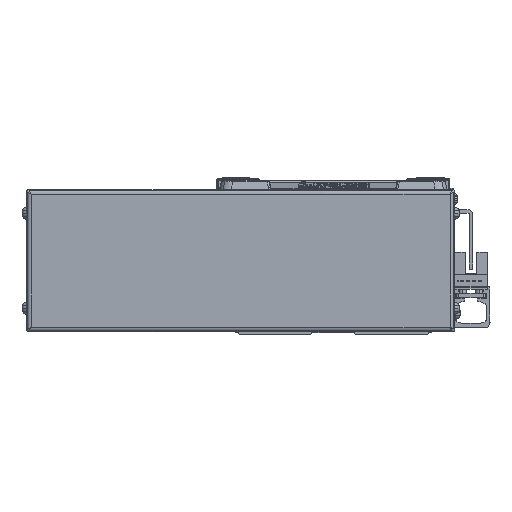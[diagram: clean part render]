
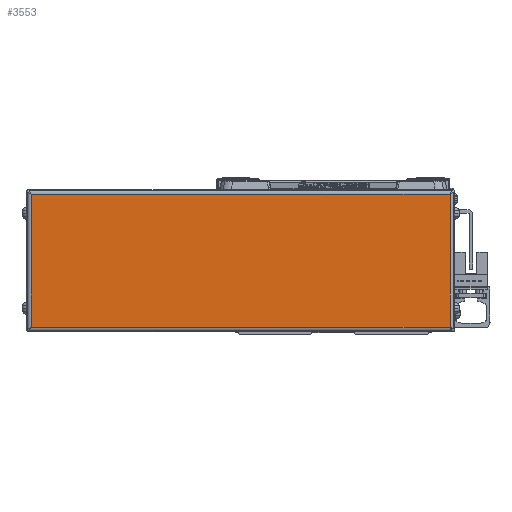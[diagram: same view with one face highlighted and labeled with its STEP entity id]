
A CAD part, left-side view. The second image highlights one B-rep face of the part: STEP entity #3553.
In plain terms, the highlighted planar face has unit normal (-1, 0, 0).
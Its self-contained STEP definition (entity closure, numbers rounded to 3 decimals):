
#3553=ADVANCED_FACE('',(#8895),#8896,.F.);
#8895=FACE_OUTER_BOUND('',#16591,.T.);
#8896=PLANE('',#16592);
#16591=EDGE_LOOP('',(#26758,#26759,#26760,#26761));
#16592=AXIS2_PLACEMENT_3D('',#26762,#26763,#26764);
#26758=ORIENTED_EDGE('',*,*,#46851,.T.);
#26759=ORIENTED_EDGE('',*,*,#46852,.T.);
#26760=ORIENTED_EDGE('',*,*,#46853,.T.);
#26761=ORIENTED_EDGE('',*,*,#45154,.T.);
#26762=CARTESIAN_POINT('',(-616.,39.,0.));
#26763=DIRECTION('',(1.0,0.,0.));
#26764=DIRECTION('',(0.,0.,1.0));
#45154=EDGE_CURVE('',#53858,#53856,#53859,.T.);
#46851=EDGE_CURVE('',#53856,#56809,#56810,.T.);
#46852=EDGE_CURVE('',#56809,#56811,#56812,.T.);
#46853=EDGE_CURVE('',#56811,#53858,#56813,.T.);
#53856=VERTEX_POINT('',#66431);
#53858=VERTEX_POINT('',#66433);
#53859=LINE('',#66434,#66435);
#56809=VERTEX_POINT('',#70407);
#56810=LINE('',#70408,#70409);
#56811=VERTEX_POINT('',#70410);
#56812=LINE('',#70411,#70412);
#56813=LINE('',#70413,#70414);
#66431=CARTESIAN_POINT('',(-616.,-49.2,28.));
#66433=CARTESIAN_POINT('',(-616.,-49.2,-28.));
#66434=CARTESIAN_POINT('',(-616.,-49.2,0.));
#66435=VECTOR('',#82976,10.0);
#70407=CARTESIAN_POINT('',(-616.,127.2,28.));
#70408=CARTESIAN_POINT('',(-616.,39.,28.));
#70409=VECTOR('',#85338,10.0);
#70410=CARTESIAN_POINT('',(-616.0,127.2,-28.));
#70411=CARTESIAN_POINT('',(-616.0,127.2,0.));
#70412=VECTOR('',#85339,10.0);
#70413=CARTESIAN_POINT('',(-616.,39.,-28.));
#70414=VECTOR('',#85340,10.0);
#82976=DIRECTION('',(0.,0.,1.0));
#85338=DIRECTION('',(0.,1.0,0.));
#85339=DIRECTION('',(0.,0.,-1.0));
#85340=DIRECTION('',(0.,-1.0,0.));
